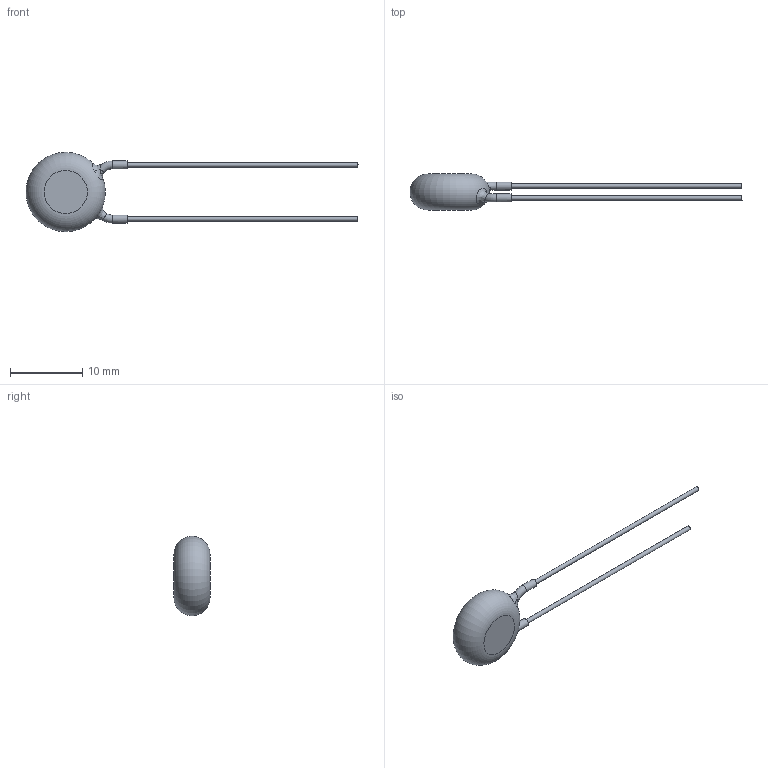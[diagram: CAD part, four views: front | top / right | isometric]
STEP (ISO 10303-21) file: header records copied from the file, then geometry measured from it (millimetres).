
FILE_DESCRIPTION((''),'2;1');
FILE_NAME('I:\Marketing\M6t1\3D-Models\Zchng-Werk-3\Upload for homepage\BCC\AY2\Y5U-7,5mm\AY2332M41Y5US63L7\AY2332M41Y5US63L7.stp','2015-09-09T08:49:28',(''),(''),'Autodesk Inventor 2013','Autodesk Inventor 2013','');
FILE_SCHEMA(('AUTOMOTIVE_DESIGN { 1 0 10303 214 1 1 1 1 }'));
Length unit declared in the file: centimetre
Products named in the file (1): AY2332M41Y5US63L7
Bounding box: 46 x 5 x 10.99 mm (x, y, z)
Volume: 419.1 mm3; surface area: 432.1 mm2
Topology: 1 solids, 1 shells, 19 faces, 35 edges, 22 vertices
Faces by surface type: cylinder 6, plane 6, bspline 4, torus 3
Full cylindrical faces by diameter (mm): 0.6 x2, 1.1 x2
Entity records: 701 total; most frequent: CARTESIAN_POINT 330, DIRECTION 64, ORIENTED_EDGE 48, AXIS2_PLACEMENT_3D 32, EDGE_LOOP 30, EDGE_CURVE 24, STYLED_ITEM 20, FACE_OUTER_BOUND 19
